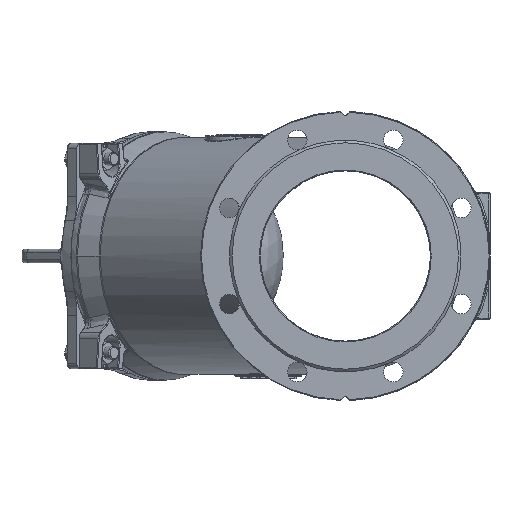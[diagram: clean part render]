
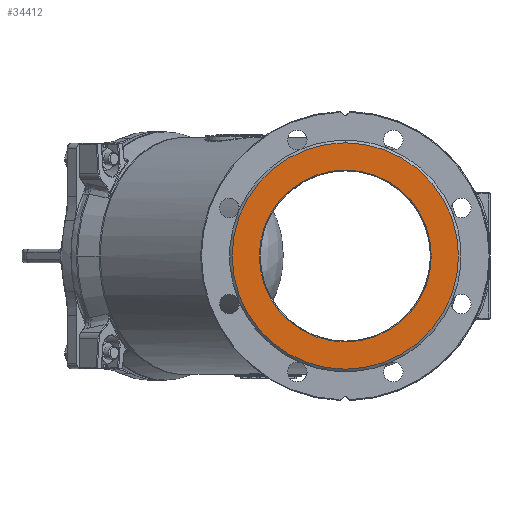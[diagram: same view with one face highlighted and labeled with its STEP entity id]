
A CAD part, left-side view. The second image highlights one B-rep face of the part: STEP entity #34412.
In plain terms, the highlighted planar face has unit normal (-1, 0, 0).
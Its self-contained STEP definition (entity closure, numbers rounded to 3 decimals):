
#1114 = AXIS2_PLACEMENT_3D ( 'NONE', #19926, #43064, #19592 ) ;
#1632 = CIRCLE ( 'NONE', #47360, 133. ) ;
#2559 = DIRECTION ( 'NONE',  ( 0., 0., 1. ) ) ;
#3074 = DIRECTION ( 'NONE',  ( -1., 0., 0. ) ) ;
#3296 = CARTESIAN_POINT ( 'NONE',  ( -284.282, -49.271, -101. ) ) ;
#5100 = VERTEX_POINT ( 'NONE', #43147 ) ;
#6994 = VERTEX_POINT ( 'NONE', #11961 ) ;
#8519 = EDGE_CURVE ( 'NONE', #6994, #43648, #1632, .T. ) ;
#10907 = CARTESIAN_POINT ( 'NONE',  ( -284.282, -49.271, 0. ) ) ;
#11961 = CARTESIAN_POINT ( 'NONE',  ( -284.282, -49.271, -133. ) ) ;
#14159 = AXIS2_PLACEMENT_3D ( 'NONE', #10907, #22496, #15013 ) ;
#15013 = DIRECTION ( 'NONE',  ( 0., 0., 1. ) ) ;
#17004 = FACE_BOUND ( 'NONE', #35688, .T. ) ;
#18893 = CARTESIAN_POINT ( 'NONE',  ( -284.282, -49.271, 0. ) ) ;
#19592 = DIRECTION ( 'NONE',  ( 0., 0., 1. ) ) ;
#19781 = CIRCLE ( 'NONE', #1114, 101. ) ;
#19926 = CARTESIAN_POINT ( 'NONE',  ( -284.282, -49.271, 0. ) ) ;
#20633 = ORIENTED_EDGE ( 'NONE', *, *, #39528, .T. ) ;
#20888 = VERTEX_POINT ( 'NONE', #3296 ) ;
#22496 = DIRECTION ( 'NONE',  ( 1., 0., 0. ) ) ;
#22555 = CIRCLE ( 'NONE', #14159, 101. ) ;
#23659 = ORIENTED_EDGE ( 'NONE', *, *, #38966, .T. ) ;
#23724 = AXIS2_PLACEMENT_3D ( 'NONE', #18893, #27103, #50203 ) ;
#27103 = DIRECTION ( 'NONE',  ( -1., 0., 0. ) ) ;
#30909 = DIRECTION ( 'NONE',  ( -1., 0., 0. ) ) ;
#31698 = EDGE_LOOP ( 'NONE', ( #47555, #20633 ) ) ;
#34412 = ADVANCED_FACE ( 'NONE', ( #17004, #37199 ), #46674, .T. ) ;
#35688 = EDGE_LOOP ( 'NONE', ( #23659, #44001 ) ) ;
#37199 = FACE_OUTER_BOUND ( 'NONE', #31698, .T. ) ;
#37657 = AXIS2_PLACEMENT_3D ( 'NONE', #42554, #30909, #46499 ) ;
#38005 = CARTESIAN_POINT ( 'NONE',  ( -284.282, -49.271, 133. ) ) ;
#38747 = CIRCLE ( 'NONE', #23724, 133. ) ;
#38966 = EDGE_CURVE ( 'NONE', #5100, #20888, #19781, .T. ) ;
#39528 = EDGE_CURVE ( 'NONE', #43648, #6994, #38747, .T. ) ;
#42554 = CARTESIAN_POINT ( 'NONE',  ( -284.282, -49.271, 0. ) ) ;
#43064 = DIRECTION ( 'NONE',  ( 1., 0., 0. ) ) ;
#43147 = CARTESIAN_POINT ( 'NONE',  ( -284.282, -49.271, 101. ) ) ;
#43648 = VERTEX_POINT ( 'NONE', #38005 ) ;
#44001 = ORIENTED_EDGE ( 'NONE', *, *, #47425, .T. ) ;
#46499 = DIRECTION ( 'NONE',  ( 0., 0., 1. ) ) ;
#46674 = PLANE ( 'NONE',  #37657 ) ;
#47360 = AXIS2_PLACEMENT_3D ( 'NONE', #49408, #3074, #2559 ) ;
#47425 = EDGE_CURVE ( 'NONE', #20888, #5100, #22555, .T. ) ;
#47555 = ORIENTED_EDGE ( 'NONE', *, *, #8519, .T. ) ;
#49408 = CARTESIAN_POINT ( 'NONE',  ( -284.282, -49.271, 0. ) ) ;
#50203 = DIRECTION ( 'NONE',  ( 0., 0., 1. ) ) ;
